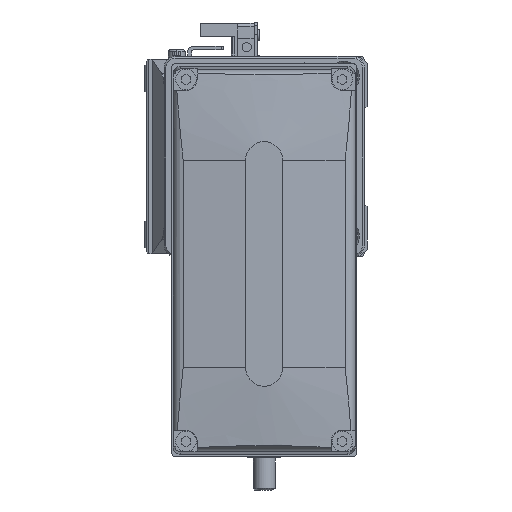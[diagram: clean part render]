
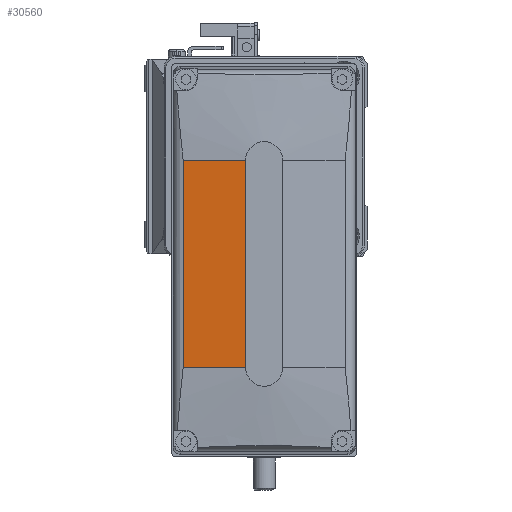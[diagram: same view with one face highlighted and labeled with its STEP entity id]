
A CAD part, left-side view. The second image highlights one B-rep face of the part: STEP entity #30560.
In plain terms, the highlighted planar face has unit normal (-0.996, 0.087, 0) as drawn and (-0.996, 0, -0.087) by its records, which use the part's own axes.
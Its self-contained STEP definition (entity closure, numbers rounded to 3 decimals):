
#23 = EDGE_CURVE ( 'NONE', #594, #23638, #28727, .T. ) ;
#150 = CARTESIAN_POINT ( 'NONE',  ( -50., 128., -5. ) ) ;
#594 = VERTEX_POINT ( 'NONE', #14939 ) ;
#6053 = LINE ( 'NONE', #150, #24357 ) ;
#6615 = ORIENTED_EDGE ( 'NONE', *, *, #25942, .F. ) ;
#6862 = EDGE_CURVE ( 'NONE', #37183, #23638, #6053, .T. ) ;
#6901 = FACE_OUTER_BOUND ( 'NONE', #35218, .T. ) ;
#8773 = ORIENTED_EDGE ( 'NONE', *, *, #23301, .F. ) ;
#9325 = ORIENTED_EDGE ( 'NONE', *, *, #23, .F. ) ;
#9860 = VECTOR ( 'NONE', #37623, 1000. ) ;
#12788 = CARTESIAN_POINT ( 'NONE',  ( -50., 128., -5. ) ) ;
#13868 = ORIENTED_EDGE ( 'NONE', *, *, #6862, .T. ) ;
#14939 = CARTESIAN_POINT ( 'NONE',  ( -48.525, 28., -21.861 ) ) ;
#14999 = VECTOR ( 'NONE', #37209, 1000. ) ;
#18671 = PLANE ( 'NONE',  #27144 ) ;
#20263 = CARTESIAN_POINT ( 'NONE',  ( -50., -28., -5. ) ) ;
#21548 = LINE ( 'NONE', #22961, #35294 ) ;
#22025 = DIRECTION ( 'NONE',  ( -0.996, 0., -0.087 ) ) ;
#22475 = CARTESIAN_POINT ( 'NONE',  ( 43606.406, 28., -499000. ) ) ;
#22961 = CARTESIAN_POINT ( 'NONE',  ( 43606.406, -28., -499000. ) ) ;
#23301 = EDGE_CURVE ( 'NONE', #33060, #594, #30018, .T. ) ;
#23638 = VERTEX_POINT ( 'NONE', #30248 ) ;
#24357 = VECTOR ( 'NONE', #26504, 1000. ) ;
#24381 = CARTESIAN_POINT ( 'NONE',  ( -48.525, -28., -21.861 ) ) ;
#24829 = DIRECTION ( 'NONE',  ( -0.087, 0., 0.996 ) ) ;
#25942 = EDGE_CURVE ( 'NONE', #37183, #33060, #21548, .T. ) ;
#26504 = DIRECTION ( 'NONE',  ( 0., 1., 0. ) ) ;
#27144 = AXIS2_PLACEMENT_3D ( 'NONE', #12788, #22025, #24829 ) ;
#28727 = LINE ( 'NONE', #22475, #14999 ) ;
#30018 = LINE ( 'NONE', #31881, #9860 ) ;
#30248 = CARTESIAN_POINT ( 'NONE',  ( -50., 28., -5. ) ) ;
#30560 = ADVANCED_FACE ( 'NONE', ( #6901 ), #18671, .T. ) ;
#31730 = DIRECTION ( 'NONE',  ( 0.087, 0., -0.996 ) ) ;
#31881 = CARTESIAN_POINT ( 'NONE',  ( -48.525, 128., -21.861 ) ) ;
#33060 = VERTEX_POINT ( 'NONE', #24381 ) ;
#35218 = EDGE_LOOP ( 'NONE', ( #9325, #8773, #6615, #13868 ) ) ;
#35294 = VECTOR ( 'NONE', #31730, 1000. ) ;
#37183 = VERTEX_POINT ( 'NONE', #20263 ) ;
#37209 = DIRECTION ( 'NONE',  ( -0.087, 0., 0.996 ) ) ;
#37623 = DIRECTION ( 'NONE',  ( 0., 1., 0. ) ) ;
